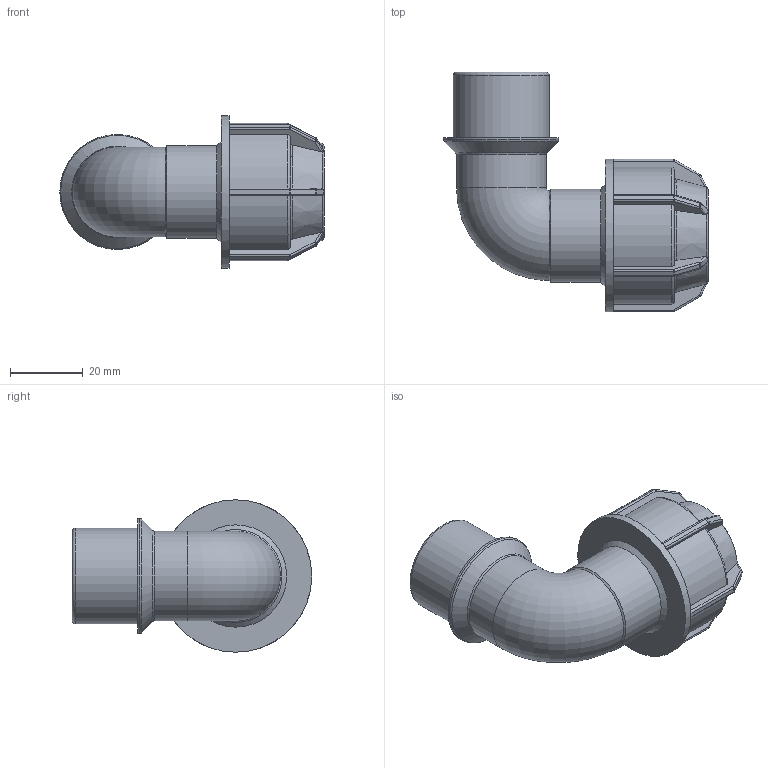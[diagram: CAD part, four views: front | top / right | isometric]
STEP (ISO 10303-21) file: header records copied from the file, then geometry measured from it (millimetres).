
FILE_DESCRIPTION(/* description */ ('PLASSON L.14 90° ELBOW MALE ADAPTOR (SILVER) 16-3/4"'),/* implementation_level */ '2;1');
FILE_NAME(/* name */ 'C:\Dropbox\KIMPROJECTS-Inventor\99-16-3568-Processing\Silver+MF ISRAEL\148500\148500016007.ipt.stp',/* time_stamp */ '2018-04-09T13:05:40+03:00',/* author */ ('KIM'),/* organization */ (''),/* preprocessor_version */ 'ST-DEVELOPER v15.6',/* originating_system */ 'Autodesk Inventor 2015',/* authorisation */ '');
FILE_SCHEMA (('AUTOMOTIVE_DESIGN { 1 0 10303 214 3 1 1 }'));
Length unit declared in the file: millimetre
Products named in the file (1): 148500016007
Bounding box: 72.86 x 66 x 42 mm (x, y, z)
Volume: 36908.8 mm3; surface area: 17593.4 mm2
Topology: 1 solids, 1 shells, 216 faces, 518 edges, 296 vertices
Faces by surface type: plane 100, cylinder 63, sphere 24, torus 19, cone 10
Full cylindrical faces by diameter (mm): 14.4 x1, 16 x2, 21.153 x1, 24.722 x1, 25.6 x1, 26.441 x1, 31.729 x1, 42 x1
Entity records: 6150 total; most frequent: CARTESIAN_POINT 1554, DIRECTION 970, ORIENTED_EDGE 926, EDGE_CURVE 463, AXIS2_PLACEMENT_3D 395, VERTEX_POINT 277, EDGE_LOOP 240, FACE_OUTER_BOUND 213
